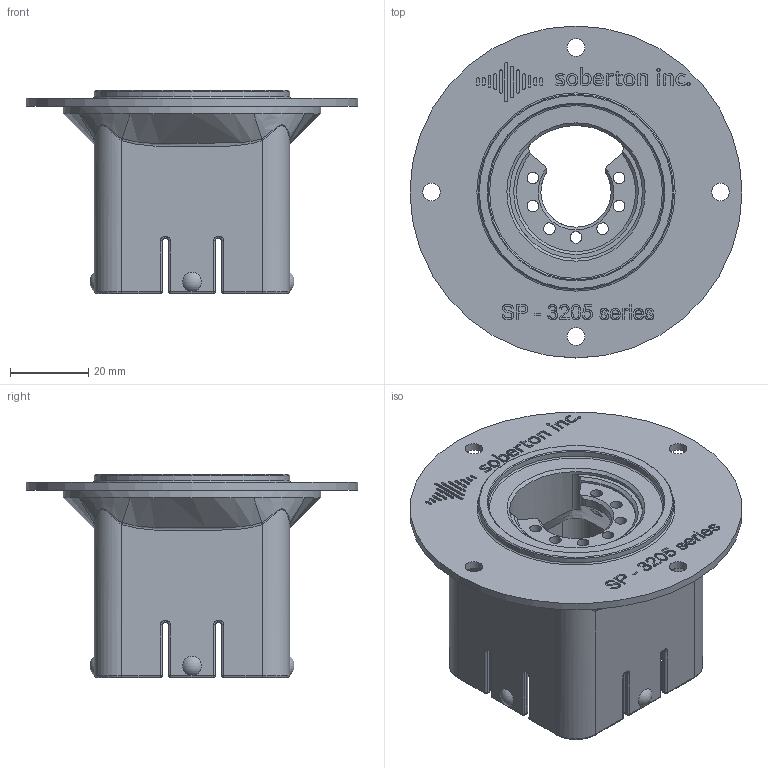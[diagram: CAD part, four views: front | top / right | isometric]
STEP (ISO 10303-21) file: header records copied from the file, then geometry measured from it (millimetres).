
FILE_DESCRIPTION(/* description */ ('Alibre Inc.'),/* implementation_level */ '2;1');
FILE_NAME(/* name */ 'export-6C002257-C2D1-4F29-A36E-A814BEF4BB3C',/* time_stamp */ '2020-08-19T17:19:20-05:00',/* author */ (''),/* organization */ (''),/* preprocessor_version */ 'ST-DEVELOPER v17',/* originating_system */ 'Alibre',/* authorisation */ '');
FILE_SCHEMA (('AUTOMOTIVE_DESIGN'));
Length unit declared in the file: millimetre
Bounding box: 85 x 85 x 52 mm (x, y, z)
Volume: 56602.4 mm3; surface area: 26510.9 mm2
Topology: 1 solids, 2 shells, 875 faces, 2326 edges, 1476 vertices
Faces by surface type: bspline 412, plane 228, cylinder 156, torus 38, sphere 36, cone 5
Full cylindrical faces by diameter (mm): 0.429 x1, 3 x7, 4.5 x4, 34 x1, 45 x1, 50 x1, 66 x1, 85 x1
Entity records: 35027 total; most frequent: CARTESIAN_POINT 16554, ORIENTED_EDGE 4518, DIRECTION 2411, EDGE_CURVE 2259, VERTEX_POINT 1463, VECTOR 1050, LINE 1050, EDGE_LOOP 974
